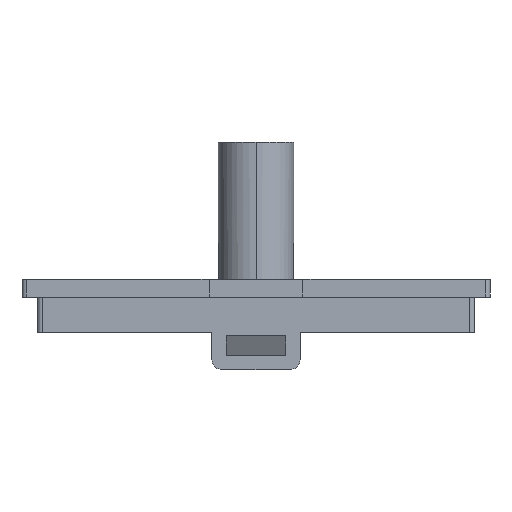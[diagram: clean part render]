
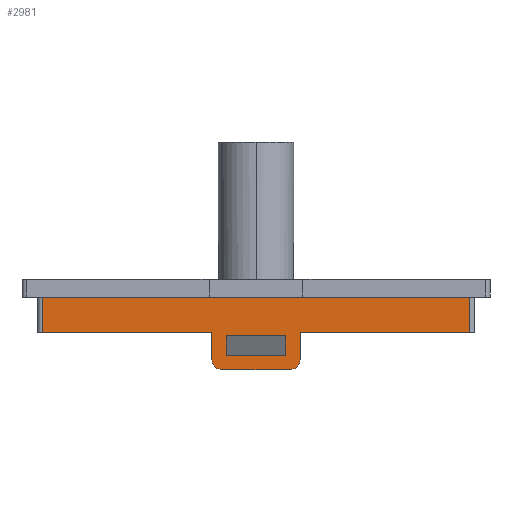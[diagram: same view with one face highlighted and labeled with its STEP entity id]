
A CAD part, left-side view. The second image highlights one B-rep face of the part: STEP entity #2981.
In plain terms, the highlighted planar face has unit normal (-1, 0, 0).
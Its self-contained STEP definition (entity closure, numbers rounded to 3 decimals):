
#56 = VERTEX_POINT ( 'NONE', #1650 ) ;
#62 = LINE ( 'NONE', #1564, #1514 ) ;
#128 = VECTOR ( 'NONE', #2370, 1000. ) ;
#151 = CARTESIAN_POINT ( 'NONE',  ( -22.35, 22.35, -5.4 ) ) ;
#163 = VECTOR ( 'NONE', #713, 1000. ) ;
#166 = CARTESIAN_POINT ( 'NONE',  ( -22.35, 3.5, -9.2 ) ) ;
#186 = CARTESIAN_POINT ( 'NONE',  ( -22.35, -3.05, -7.75 ) ) ;
#288 = VERTEX_POINT ( 'NONE', #1188 ) ;
#320 = CARTESIAN_POINT ( 'NONE',  ( -22.35, 3.05, -5.75 ) ) ;
#328 = ORIENTED_EDGE ( 'NONE', *, *, #1578, .F. ) ;
#417 = ORIENTED_EDGE ( 'NONE', *, *, #1543, .F. ) ;
#453 = CARTESIAN_POINT ( 'NONE',  ( -22.35, 21.85, -5.4 ) ) ;
#459 = DIRECTION ( 'NONE',  ( 0., 1., 0. ) ) ;
#467 = VECTOR ( 'NONE', #2513, 1000. ) ;
#488 = VERTEX_POINT ( 'NONE', #186 ) ;
#494 = EDGE_LOOP ( 'NONE', ( #417, #3532, #2545, #3733 ) ) ;
#560 = LINE ( 'NONE', #3480, #3738 ) ;
#576 = ORIENTED_EDGE ( 'NONE', *, *, #1638, .T. ) ;
#634 = ORIENTED_EDGE ( 'NONE', *, *, #3281, .F. ) ;
#648 = LINE ( 'NONE', #2826, #2743 ) ;
#654 = CIRCLE ( 'NONE', #2724, 1. ) ;
#712 = VERTEX_POINT ( 'NONE', #835 ) ;
#713 = DIRECTION ( 'NONE',  ( 0., 0., 1. ) ) ;
#835 = CARTESIAN_POINT ( 'NONE',  ( -22.35, 21.85, -5.4 ) ) ;
#842 = CARTESIAN_POINT ( 'NONE',  ( -22.35, 22.35, -5.4 ) ) ;
#880 = CARTESIAN_POINT ( 'NONE',  ( -22.35, 22.35, -5.4 ) ) ;
#884 = VERTEX_POINT ( 'NONE', #2386 ) ;
#894 = PLANE ( 'NONE',  #3237 ) ;
#928 = VECTOR ( 'NONE', #2943, 1000. ) ;
#961 = CARTESIAN_POINT ( 'NONE',  ( -22.35, 4.5, -1.8 ) ) ;
#997 = VERTEX_POINT ( 'NONE', #2278 ) ;
#1000 = VERTEX_POINT ( 'NONE', #1697 ) ;
#1002 = DIRECTION ( 'NONE',  ( 1., 0., 0. ) ) ;
#1092 = ORIENTED_EDGE ( 'NONE', *, *, #1550, .F. ) ;
#1183 = DIRECTION ( 'NONE',  ( 1., 0., 0. ) ) ;
#1188 = CARTESIAN_POINT ( 'NONE',  ( -22.35, -4.5, -5.4 ) ) ;
#1230 = LINE ( 'NONE', #166, #3638 ) ;
#1256 = DIRECTION ( 'NONE',  ( 1., 0., 0. ) ) ;
#1374 = VERTEX_POINT ( 'NONE', #2205 ) ;
#1421 = LINE ( 'NONE', #2798, #2224 ) ;
#1424 = VERTEX_POINT ( 'NONE', #3427 ) ;
#1468 = EDGE_CURVE ( 'NONE', #56, #997, #62, .T. ) ;
#1499 = EDGE_CURVE ( 'NONE', #1374, #3870, #1421, .T. ) ;
#1514 = VECTOR ( 'NONE', #1879, 1000. ) ;
#1516 = EDGE_CURVE ( 'NONE', #488, #1852, #560, .T. ) ;
#1543 = EDGE_CURVE ( 'NONE', #488, #1374, #3835, .T. ) ;
#1550 = EDGE_CURVE ( 'NONE', #3791, #712, #2846, .T. ) ;
#1561 = EDGE_CURVE ( 'NONE', #288, #3716, #648, .T. ) ;
#1564 = CARTESIAN_POINT ( 'NONE',  ( -22.35, -21.85, -5.4 ) ) ;
#1578 = EDGE_CURVE ( 'NONE', #1424, #884, #1230, .T. ) ;
#1584 = DIRECTION ( 'NONE',  ( 0., 1., 0. ) ) ;
#1594 = DIRECTION ( 'NONE',  ( 0., 1., 0. ) ) ;
#1638 = EDGE_CURVE ( 'NONE', #997, #1000, #1699, .T. ) ;
#1650 = CARTESIAN_POINT ( 'NONE',  ( -22.35, -21.85, -5.4 ) ) ;
#1697 = CARTESIAN_POINT ( 'NONE',  ( -22.35, 21.85, -1.8 ) ) ;
#1699 = LINE ( 'NONE', #3669, #128 ) ;
#1726 = LINE ( 'NONE', #842, #928 ) ;
#1809 = ORIENTED_EDGE ( 'NONE', *, *, #3360, .F. ) ;
#1827 = CIRCLE ( 'NONE', #2647, 1. ) ;
#1852 = VERTEX_POINT ( 'NONE', #2809 ) ;
#1879 = DIRECTION ( 'NONE',  ( 0., 0., 1. ) ) ;
#1926 = DIRECTION ( 'NONE',  ( 0., 0., 1. ) ) ;
#2027 = ORIENTED_EDGE ( 'NONE', *, *, #3314, .F. ) ;
#2047 = VECTOR ( 'NONE', #1926, 1000. ) ;
#2062 = CARTESIAN_POINT ( 'NONE',  ( -22.35, -4.5, -8.2 ) ) ;
#2097 = CARTESIAN_POINT ( 'NONE',  ( -22.35, 4.5, -5.4 ) ) ;
#2189 = CARTESIAN_POINT ( 'NONE',  ( -22.35, 4.5, -8.2 ) ) ;
#2205 = CARTESIAN_POINT ( 'NONE',  ( -22.35, -3.05, -5.75 ) ) ;
#2224 = VECTOR ( 'NONE', #1584, 1000. ) ;
#2278 = CARTESIAN_POINT ( 'NONE',  ( -22.35, -21.85, -1.8 ) ) ;
#2370 = DIRECTION ( 'NONE',  ( 0., 1., 0. ) ) ;
#2386 = CARTESIAN_POINT ( 'NONE',  ( -22.35, 3.5, -9.2 ) ) ;
#2418 = VECTOR ( 'NONE', #3092, 1000. ) ;
#2497 = CARTESIAN_POINT ( 'NONE',  ( -22.35, -3.05, -7.75 ) ) ;
#2513 = DIRECTION ( 'NONE',  ( 0., 1., 0. ) ) ;
#2517 = FACE_BOUND ( 'NONE', #494, .T. ) ;
#2518 = LINE ( 'NONE', #3152, #163 ) ;
#2520 = DIRECTION ( 'NONE',  ( 0., 0., -1. ) ) ;
#2545 = ORIENTED_EDGE ( 'NONE', *, *, #3384, .T. ) ;
#2618 = FACE_OUTER_BOUND ( 'NONE', #3105, .T. ) ;
#2647 = AXIS2_PLACEMENT_3D ( 'NONE', #2796, #1002, #3139 ) ;
#2724 = AXIS2_PLACEMENT_3D ( 'NONE', #3107, #1256, #3443 ) ;
#2743 = VECTOR ( 'NONE', #3169, 1000. ) ;
#2796 = CARTESIAN_POINT ( 'NONE',  ( -22.35, -3.5, -8.2 ) ) ;
#2798 = CARTESIAN_POINT ( 'NONE',  ( -22.35, -3.05, -5.75 ) ) ;
#2805 = VECTOR ( 'NONE', #2520, 1000. ) ;
#2809 = CARTESIAN_POINT ( 'NONE',  ( -22.35, 3.05, -7.75 ) ) ;
#2826 = CARTESIAN_POINT ( 'NONE',  ( -22.35, -4.5, -1.8 ) ) ;
#2846 = LINE ( 'NONE', #151, #467 ) ;
#2943 = DIRECTION ( 'NONE',  ( 0., 1., 0. ) ) ;
#2981 = ADVANCED_FACE ( 'NONE', ( #2618, #2517 ), #894, .F. ) ;
#3056 = ORIENTED_EDGE ( 'NONE', *, *, #1561, .F. ) ;
#3092 = DIRECTION ( 'NONE',  ( 0., 0., 1. ) ) ;
#3105 = EDGE_LOOP ( 'NONE', ( #634, #3855, #576, #3346, #1092, #2027, #3373, #328, #1809, #3056 ) ) ;
#3107 = CARTESIAN_POINT ( 'NONE',  ( -22.35, 3.5, -8.2 ) ) ;
#3139 = DIRECTION ( 'NONE',  ( 0., 0., 1. ) ) ;
#3152 = CARTESIAN_POINT ( 'NONE',  ( -22.35, 3.05, -7.75 ) ) ;
#3169 = DIRECTION ( 'NONE',  ( 0., 0., -1. ) ) ;
#3183 = VERTEX_POINT ( 'NONE', #2189 ) ;
#3221 = EDGE_CURVE ( 'NONE', #1000, #712, #3698, .T. ) ;
#3237 = AXIS2_PLACEMENT_3D ( 'NONE', #880, #1183, #3351 ) ;
#3281 = EDGE_CURVE ( 'NONE', #56, #288, #1726, .T. ) ;
#3314 = EDGE_CURVE ( 'NONE', #3183, #3791, #3844, .T. ) ;
#3325 = EDGE_CURVE ( 'NONE', #884, #3183, #654, .T. ) ;
#3346 = ORIENTED_EDGE ( 'NONE', *, *, #3221, .T. ) ;
#3351 = DIRECTION ( 'NONE',  ( 0., 0., -1. ) ) ;
#3360 = EDGE_CURVE ( 'NONE', #3716, #1424, #1827, .T. ) ;
#3373 = ORIENTED_EDGE ( 'NONE', *, *, #3325, .F. ) ;
#3384 = EDGE_CURVE ( 'NONE', #1852, #3870, #2518, .T. ) ;
#3427 = CARTESIAN_POINT ( 'NONE',  ( -22.35, -3.5, -9.2 ) ) ;
#3443 = DIRECTION ( 'NONE',  ( 0., 0., -1. ) ) ;
#3480 = CARTESIAN_POINT ( 'NONE',  ( -22.35, -3.05, -7.75 ) ) ;
#3532 = ORIENTED_EDGE ( 'NONE', *, *, #1516, .T. ) ;
#3638 = VECTOR ( 'NONE', #459, 1000. ) ;
#3669 = CARTESIAN_POINT ( 'NONE',  ( -22.35, 22.35, -1.8 ) ) ;
#3698 = LINE ( 'NONE', #453, #2805 ) ;
#3716 = VERTEX_POINT ( 'NONE', #2062 ) ;
#3733 = ORIENTED_EDGE ( 'NONE', *, *, #1499, .F. ) ;
#3738 = VECTOR ( 'NONE', #1594, 1000. ) ;
#3791 = VERTEX_POINT ( 'NONE', #2097 ) ;
#3835 = LINE ( 'NONE', #2497, #2047 ) ;
#3844 = LINE ( 'NONE', #961, #2418 ) ;
#3855 = ORIENTED_EDGE ( 'NONE', *, *, #1468, .T. ) ;
#3870 = VERTEX_POINT ( 'NONE', #320 ) ;
